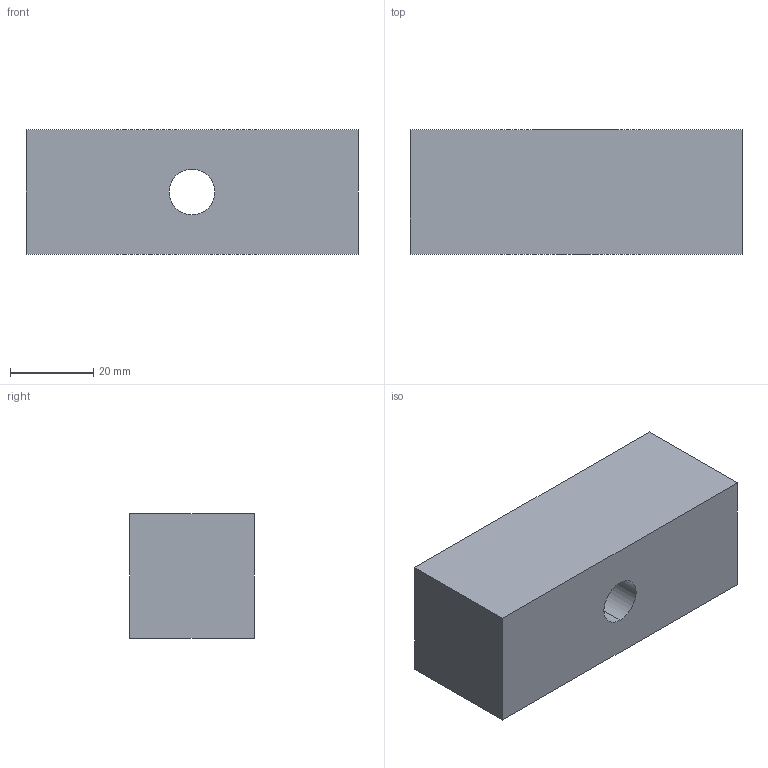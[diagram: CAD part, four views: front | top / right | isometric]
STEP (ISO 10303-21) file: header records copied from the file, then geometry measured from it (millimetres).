
FILE_DESCRIPTION(('CATIA V5 STEP Exchange'),'2;1');
FILE_NAME('C:\Users\Raffaele\Desktop\3D X SITO CF\760\GSB_OILLESS_M317043030080\STEP-2.03\760-3030125.stp','2019-07-04T13:38:23+00:00',('none'),('none'),'CATIA Version 5 Release 20 GA (IN-10)','CATIA V5 STEP AP203','none');
FILE_SCHEMA(('CONFIG_CONTROL_DESIGN'));
Length unit declared in the file: millimetre
Products named in the file (1): 760-3030125
Bounding box: 80 x 30 x 30 mm (x, y, z)
Volume: 66519.5 mm3; surface area: 12586 mm2
Topology: 1 solids, 1 shells, 11 faces, 32 edges, 24 vertices
Faces by surface type: plane 7, cylinder 4
Entity records: 464 total; most frequent: CARTESIAN_POINT 124, ORIENTED_EDGE 64, DIRECTION 50, EDGE_CURVE 32, AXIS2_PLACEMENT_3D 24, VERTEX_POINT 24, VECTOR 16, LINE 16
